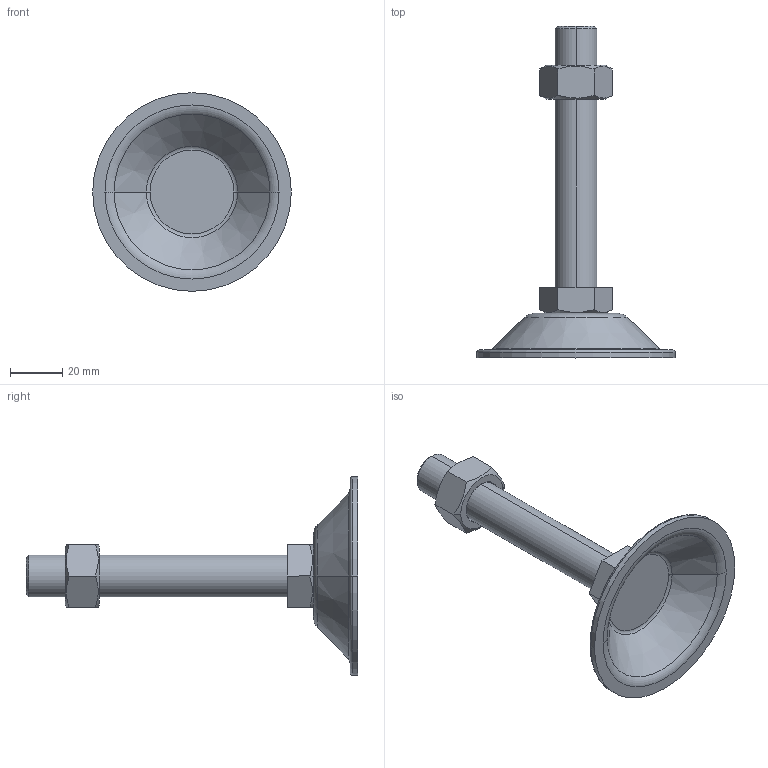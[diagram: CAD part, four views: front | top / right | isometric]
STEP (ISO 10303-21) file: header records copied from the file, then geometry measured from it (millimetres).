
FILE_DESCRIPTION (( 'STEP AP214' ), '1' );
FILE_NAME ('BL76-M16-100.step', '2021-01-06T05:39:37', ( '' ), ( '' ), 'SwSTEP 2.0', 'SolidWorks 2019', '' );
FILE_SCHEMA (( 'AUTOMOTIVE_DESIGN' ));
Length unit declared in the file: millimetre
Products named in the file (1): BL76-M16-100
Bounding box: 76 x 127 x 76 mm (x, y, z)
Volume: 44876.5 mm3; surface area: 20346.5 mm2
Topology: 3 solids, 3 shells, 53 faces, 110 edges, 66 vertices
Faces by surface type: plane 21, cone 16, torus 10, cylinder 6
Entity records: 1618 total; most frequent: CARTESIAN_POINT 428, DIRECTION 252, ORIENTED_EDGE 220, EDGE_CURVE 110, AXIS2_PLACEMENT_3D 106, VERTEX_POINT 66, EDGE_LOOP 58, FACE_OUTER_BOUND 53
